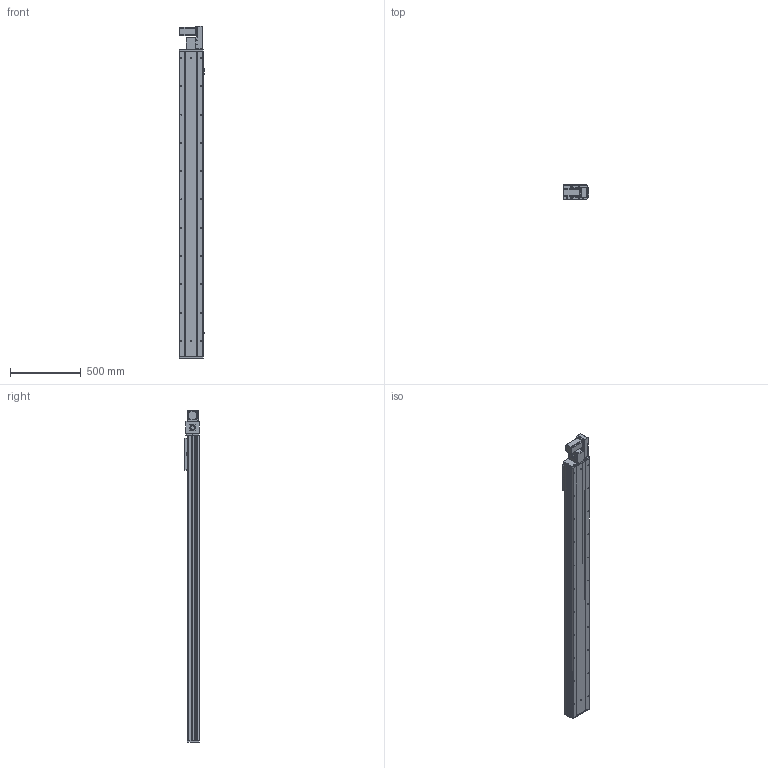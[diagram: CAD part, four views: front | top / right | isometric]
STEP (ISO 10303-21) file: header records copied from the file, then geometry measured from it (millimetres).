
FILE_DESCRIPTION (( 'STEP AP203' ), '1' );
FILE_NAME ('Y170CB-D105-S1850-BR-P400W.STEP', '2020-02-19T09:32:50', ( '微软用户' ), ( '微软中国' ), 'SwSTEP 2.0', 'SolidWorks 2017', '' );
FILE_SCHEMA (( 'CONFIG_CONTROL_DESIGN' ));
Length unit declared in the file: millimetre
Products named in the file (17): B-源倛裔啣; 17B-耜蚾蟀諉啣----; 0B-萇儂楊擘啣; san松下电机400不带刹车----; Y70俋欶BR----; 70CB-掛极-; --70CB --喘謫眊楊擘啣-; 70CB-耜裔啣-; 70C--詩湍揤踡え-; 70CB--耜裔; 70C-雄赽釱-奻-; 0C--雄赽釱俋欶-170; 70CB-詩湍--; Y100-135俋离換覜ん--; Y170CB-陔俋离換覜結え---; 70B喘謫眊----; Y170CB-D105-S1850-BR-P400W
Assembly tree (20 placements, depth 2):
  Y170CB-D105-S1850-BR-P400W
    70B喘謫眊----
    B-源倛裔啣
    17B-耜蚾蟀諉啣----
    0B-萇儂楊擘啣
    san松下电机400不带刹车----
    Y70俋欶BR----
    70CB-掛极-
    --70CB --喘謫眊楊擘啣-
    70CB-耜裔啣-  x2
    70C--詩湍揤踡え-  x2
    70CB--耜裔
    70C-雄赽釱-奻-
    0C--雄赽釱俋欶-170
    70CB-詩湍--
    Y100-135俋离換覜ん--  x3
    Y170CB-陔俋离換覜結え---
Bounding box: 183.5 x 107 x 2347 mm (x, y, z)
Volume: 9879459.8 mm3; surface area: 3552152.6 mm2
Topology: 20 solids, 20 shells, 1025 faces, 2753 edges, 1826 vertices
Faces by surface type: cylinder 539, plane 462, cone 24
Entity records: 32627 total; most frequent: CARTESIAN_POINT 6021, DIRECTION 5308, ORIENTED_EDGE 4988, EDGE_CURVE 2494, AXIS2_PLACEMENT_3D 1945, VERTEX_POINT 1656, LINE 1418, VECTOR 1418
